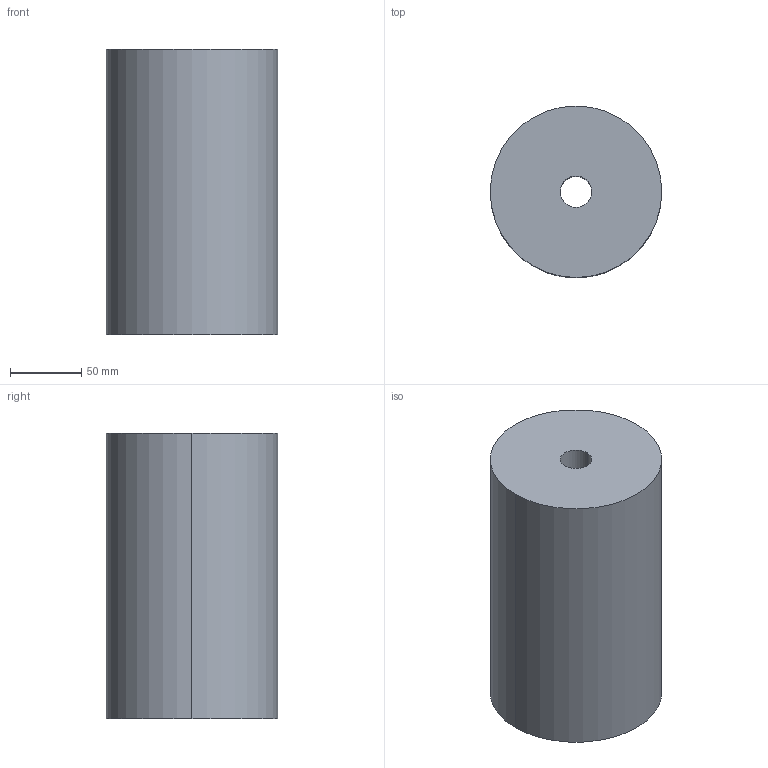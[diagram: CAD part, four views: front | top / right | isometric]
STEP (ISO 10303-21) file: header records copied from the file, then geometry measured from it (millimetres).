
FILE_DESCRIPTION(/* description */ (''),/* implementation_level */ '2;1');
FILE_NAME(/* name */ '3d_pla120-200_04962_r00.stp',/* time_stamp */ '2011-01-10T14:11:43+09:00',/* author */ ('MISUMI'),/* organization */ (''),/* preprocessor_version */ 'ST-DEVELOPER v11',/* originating_system */ 'UGS - NX 5.0',/* authorisation */ '');
FILE_SCHEMA (('CONFIG_CONTROL_DESIGN'));
Length unit declared in the file: millimetre
Products named in the file (1): 3d_pla120-200_04962_r00
Bounding box: 120 x 120 x 200 mm (x, y, z)
Volume: 2185920.2 mm3; surface area: 111080.4 mm2
Topology: 1 solids, 1 shells, 6 faces, 12 edges, 8 vertices
Faces by surface type: cylinder 4, plane 2
Entity records: 254 total; most frequent: DIRECTION 34, CARTESIAN_POINT 27, ORIENTED_EDGE 24, AXIS2_PLACEMENT_3D 15, EDGE_CURVE 12, EDGE_LOOP 8, VERTEX_POINT 8, CIRCLE 8
